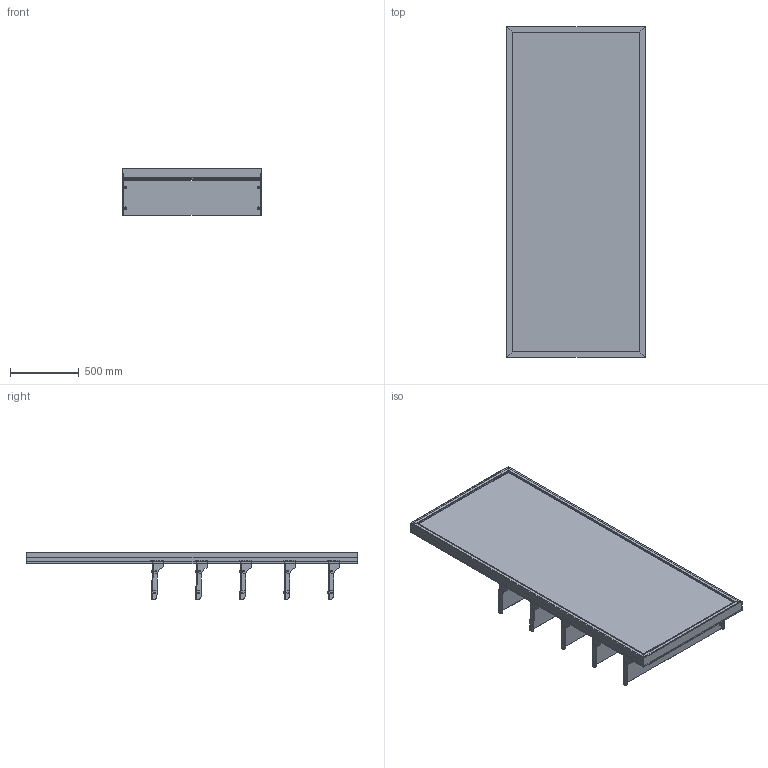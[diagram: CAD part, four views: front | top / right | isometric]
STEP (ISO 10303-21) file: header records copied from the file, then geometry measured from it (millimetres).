
FILE_DESCRIPTION (( 'STEP AP214' ), '1' );
FILE_NAME ('Slotted UpBright? 1005mm Golf Shoe Display Wall (Glass).STEP', '2026-03-31T04:28:36', ( '' ), ( '' ), 'SwSTEP 2.0', 'SolidWorks 2025', '' );
FILE_SCHEMA (( 'AUTOMOTIVE_DESIGN' ));
Length unit declared in the file: millimetre
Products named in the file (11): 0001-31-GA10 - 1005W Slotted upbright; 0000-31-113.STEP; 0001-31-SA30.STEP; 0001-31-132.STEP; Slotted UpBright® 1005mm Golf Shoe Display Wall (Glass); 0001-31-SA31 - 1005W Glass Shelf.STEP; 0001-31-123.STEP; 0001-31-114.STEP; 0001-31-124.STEP; 0001-31-SA29.STEP; 0001-31-SA31 - 1005W Glass Shelf
Assembly tree (28 placements, depth 5):
  Slotted UpBright® 1005mm Golf Shoe Display Wall (Glass)
    0001-31-GA10 - 1005W Slotted upbright
    0001-31-SA31 - 1005W Glass Shelf  x5
      0001-31-SA31 - 1005W Glass Shelf.STEP
        0001-31-SA29.STEP
          0000-31-113.STEP
          0001-31-114.STEP  x2
        0001-31-SA30.STEP
          0000-31-113.STEP
          0001-31-114.STEP  x2
        0001-31-132.STEP
        0001-31-124.STEP  x4
        0001-31-123.STEP  x8
Bounding box: 1005.74 x 2400 x 340.44 mm (x, y, z)
Volume: 18219812.9 mm3; surface area: 14842361.9 mm2
Topology: 101 solids, 101 shells, 2086 faces, 5776 edges, 3784 vertices
Faces by surface type: plane 1428, cylinder 578, cone 80
Entity records: 27927 total; most frequent: CARTESIAN_POINT 5267, ORIENTED_EDGE 5068, DIRECTION 4040, EDGE_CURVE 2534, VECTOR 2366, LINE 2366, VERTEX_POINT 1680, EDGE_LOOP 908
